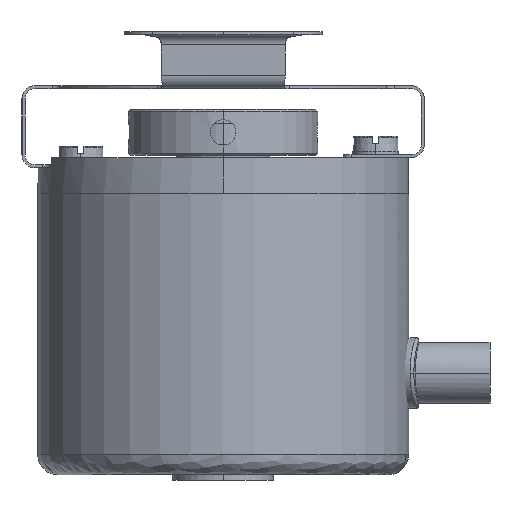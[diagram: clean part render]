
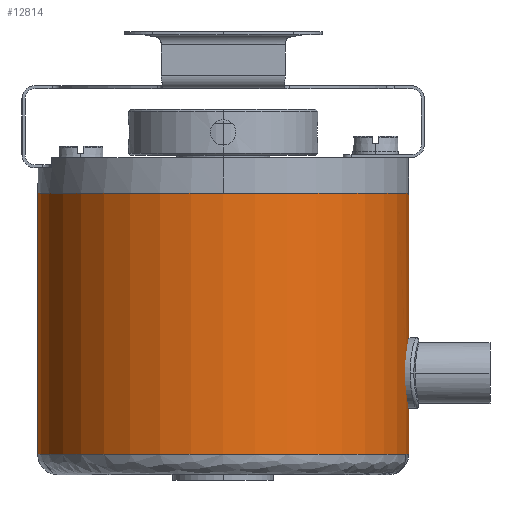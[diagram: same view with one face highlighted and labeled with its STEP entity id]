
A CAD part, left-side view. The second image highlights one B-rep face of the part: STEP entity #12814.
In plain terms, the highlighted cylindrical face has radius 18.25 mm (diameter 36.5 mm), a partial arc.
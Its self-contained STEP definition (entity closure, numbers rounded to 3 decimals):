
#1 = CARTESIAN_POINT ( 'NONE',  ( 2.186, 0., -29.2 ) ) ;
#321 = VERTEX_POINT ( 'NONE', #825 ) ;
#485 = AXIS2_PLACEMENT_3D ( 'NONE', #17063, #7734, #18620 ) ;
#825 = CARTESIAN_POINT ( 'NONE',  ( 2.186, -18.25, -18.15 ) ) ;
#948 = AXIS2_PLACEMENT_3D ( 'NONE', #2722, #15232, #1193 ) ;
#1193 = DIRECTION ( 'NONE',  ( 0., 1., 0. ) ) ;
#1397 = VERTEX_POINT ( 'NONE', #19326 ) ;
#1443 = CARTESIAN_POINT ( 'NONE',  ( 0.658, -18.187, -23.847 ) ) ;
#1514 = CARTESIAN_POINT ( 'NONE',  ( -0.767, -18.01, -20.41 ) ) ;
#1572 = CARTESIAN_POINT ( 'NONE',  ( 1.984, -18.25, -18.15 ) ) ;
#2240 = CARTESIAN_POINT ( 'NONE',  ( 2.186, -18.25, -3.5 ) ) ;
#2417 = CYLINDRICAL_SURFACE ( 'NONE', #948, 18.25 ) ;
#2722 = CARTESIAN_POINT ( 'NONE',  ( 2.186, 0., -3.5 ) ) ;
#2795 = AXIS2_PLACEMENT_3D ( 'NONE', #1, #15644, #11262 ) ;
#2961 = VECTOR ( 'NONE', #17057, 1000. ) ;
#3039 = CARTESIAN_POINT ( 'NONE',  ( 0.17, -18.139, -23.498 ) ) ;
#3120 = CARTESIAN_POINT ( 'NONE',  ( -0.555, -18.043, -19.847 ) ) ;
#3137 = LINE ( 'NONE', #4341, #15167 ) ;
#4011 = VERTEX_POINT ( 'NONE', #17986 ) ;
#4130 = EDGE_CURVE ( 'NONE', #10493, #321, #14604, .T. ) ;
#4341 = CARTESIAN_POINT ( 'NONE',  ( 2.186, -18.25, -3.5 ) ) ;
#4647 = CARTESIAN_POINT ( 'NONE',  ( -0.236, -18.089, -23.064 ) ) ;
#4707 = CARTESIAN_POINT ( 'NONE',  ( -0.24, -18.088, -19.341 ) ) ;
#5090 = ORIENTED_EDGE ( 'NONE', *, *, #18205, .T. ) ;
#5628 = B_SPLINE_CURVE_WITH_KNOTS ( 'NONE', 3,
 ( #17033, #7710, #18601, #9295, #20184, #10873, #1443, #12453, #3039, #14027, #4647, #15590, #6212, #17110, #7787, #18666, #9356, #20268, #10943, #1514, #12522, #3120, #14092, #4707, #15682, #6295, #17164, #7858, #18738, #9415, #20330, #11022, #1572, #12588 ),
 .UNSPECIFIED., .F., .F.,
 ( 4, 2, 2, 2, 2, 2, 2, 2, 2, 2, 2, 2, 2, 2, 2, 2, 4 ),
 ( 0.01, 0.01, 0.011, 0.011, 0.012, 0.013, 0.013, 0.014, 0.014, 0.015, 0.016, 0.016, 0.017, 0.017, 0.018, 0.018, 0.019 ),
 .UNSPECIFIED. ) ;
#5845 = EDGE_CURVE ( 'NONE', #10388, #19232, #3137, .T. ) ;
#5960 = EDGE_CURVE ( 'NONE', #1397, #19232, #11696, .T. ) ;
#6046 = DIRECTION ( 'NONE',  ( 0., 0., -1. ) ) ;
#6170 = CARTESIAN_POINT ( 'NONE',  ( 2.186, 18.25, -3.5 ) ) ;
#6212 = CARTESIAN_POINT ( 'NONE',  ( -0.554, -18.043, -22.554 ) ) ;
#6295 = CARTESIAN_POINT ( 'NONE',  ( 0.169, -18.139, -18.904 ) ) ;
#7635 = LINE ( 'NONE', #6170, #2961 ) ;
#7710 = CARTESIAN_POINT ( 'NONE',  ( 1.984, -18.25, -24.25 ) ) ;
#7734 = DIRECTION ( 'NONE',  ( 0., 0., -1. ) ) ;
#7787 = CARTESIAN_POINT ( 'NONE',  ( -0.765, -18.01, -21.995 ) ) ;
#7858 = CARTESIAN_POINT ( 'NONE',  ( 0.655, -18.186, -18.554 ) ) ;
#8106 = CIRCLE ( 'NONE', #485, 18.25 ) ;
#8381 = CARTESIAN_POINT ( 'NONE',  ( 2.186, -18.25, -24.25 ) ) ;
#8487 = EDGE_LOOP ( 'NONE', ( #13090, #5090, #11247, #10984, #12215, #8548 ) ) ;
#8548 = ORIENTED_EDGE ( 'NONE', *, *, #13955, .T. ) ;
#9082 = FACE_OUTER_BOUND ( 'NONE', #8487, .T. ) ;
#9295 = CARTESIAN_POINT ( 'NONE',  ( 1.396, -18.234, -24.153 ) ) ;
#9356 = CARTESIAN_POINT ( 'NONE',  ( -0.864, -17.993, -21.402 ) ) ;
#9415 = CARTESIAN_POINT ( 'NONE',  ( 1.198, -18.224, -18.308 ) ) ;
#9751 = EDGE_CURVE ( 'NONE', #4011, #1397, #7635, .T. ) ;
#10388 = VERTEX_POINT ( 'NONE', #8381 ) ;
#10493 = VERTEX_POINT ( 'NONE', #2240 ) ;
#10873 = CARTESIAN_POINT ( 'NONE',  ( 0.833, -18.201, -23.941 ) ) ;
#10943 = CARTESIAN_POINT ( 'NONE',  ( -0.844, -17.997, -20.8 ) ) ;
#10984 = ORIENTED_EDGE ( 'NONE', *, *, #5960, .T. ) ;
#11022 = CARTESIAN_POINT ( 'NONE',  ( 1.785, -18.247, -18.17 ) ) ;
#11247 = ORIENTED_EDGE ( 'NONE', *, *, #9751, .T. ) ;
#11262 = DIRECTION ( 'NONE',  ( 0., 1., 0. ) ) ;
#11696 = CIRCLE ( 'NONE', #2795, 18.25 ) ;
#12215 = ORIENTED_EDGE ( 'NONE', *, *, #5845, .F. ) ;
#12453 = CARTESIAN_POINT ( 'NONE',  ( 0.327, -18.156, -23.626 ) ) ;
#12522 = CARTESIAN_POINT ( 'NONE',  ( -0.708, -18.019, -20.216 ) ) ;
#12588 = CARTESIAN_POINT ( 'NONE',  ( 2.186, -18.25, -18.15 ) ) ;
#12814 = ADVANCED_FACE ( 'NONE', ( #9082 ), #2417, .T. ) ;
#13090 = ORIENTED_EDGE ( 'NONE', *, *, #4130, .F. ) ;
#13955 = EDGE_CURVE ( 'NONE', #10388, #321, #5628, .T. ) ;
#14027 = CARTESIAN_POINT ( 'NONE',  ( -0.11, -18.105, -23.217 ) ) ;
#14092 = CARTESIAN_POINT ( 'NONE',  ( -0.461, -18.057, -19.672 ) ) ;
#14604 = LINE ( 'NONE', #16896, #18699 ) ;
#15167 = VECTOR ( 'NONE', #6046, 1000. ) ;
#15232 = DIRECTION ( 'NONE',  ( 0., 0., -1. ) ) ;
#15590 = CARTESIAN_POINT ( 'NONE',  ( -0.459, -18.058, -22.731 ) ) ;
#15644 = DIRECTION ( 'NONE',  ( 0., 0., 1. ) ) ;
#15682 = CARTESIAN_POINT ( 'NONE',  ( -0.112, -18.105, -19.184 ) ) ;
#16896 = CARTESIAN_POINT ( 'NONE',  ( 2.186, -18.25, -3.5 ) ) ;
#16914 = DIRECTION ( 'NONE',  ( 0., 0., -1. ) ) ;
#17033 = CARTESIAN_POINT ( 'NONE',  ( 2.186, -18.25, -24.25 ) ) ;
#17057 = DIRECTION ( 'NONE',  ( 0., 0., -1. ) ) ;
#17063 = CARTESIAN_POINT ( 'NONE',  ( 2.186, 0., -3.5 ) ) ;
#17110 = CARTESIAN_POINT ( 'NONE',  ( -0.706, -18.019, -22.188 ) ) ;
#17164 = CARTESIAN_POINT ( 'NONE',  ( 0.322, -18.155, -18.778 ) ) ;
#17813 = CARTESIAN_POINT ( 'NONE',  ( 2.186, -18.25, -29.2 ) ) ;
#17986 = CARTESIAN_POINT ( 'NONE',  ( 2.186, 18.25, -3.5 ) ) ;
#18205 = EDGE_CURVE ( 'NONE', #10493, #4011, #8106, .T. ) ;
#18601 = CARTESIAN_POINT ( 'NONE',  ( 1.786, -18.247, -24.23 ) ) ;
#18620 = DIRECTION ( 'NONE',  ( 0., 1., 0. ) ) ;
#18666 = CARTESIAN_POINT ( 'NONE',  ( -0.844, -17.997, -21.601 ) ) ;
#18699 = VECTOR ( 'NONE', #16914, 1000. ) ;
#18738 = CARTESIAN_POINT ( 'NONE',  ( 0.832, -18.201, -18.46 ) ) ;
#19232 = VERTEX_POINT ( 'NONE', #17813 ) ;
#19326 = CARTESIAN_POINT ( 'NONE',  ( 2.186, 18.25, -29.2 ) ) ;
#20184 = CARTESIAN_POINT ( 'NONE',  ( 1.202, -18.224, -24.094 ) ) ;
#20268 = CARTESIAN_POINT ( 'NONE',  ( -0.864, -17.993, -20.998 ) ) ;
#20330 = CARTESIAN_POINT ( 'NONE',  ( 1.391, -18.234, -18.249 ) ) ;
